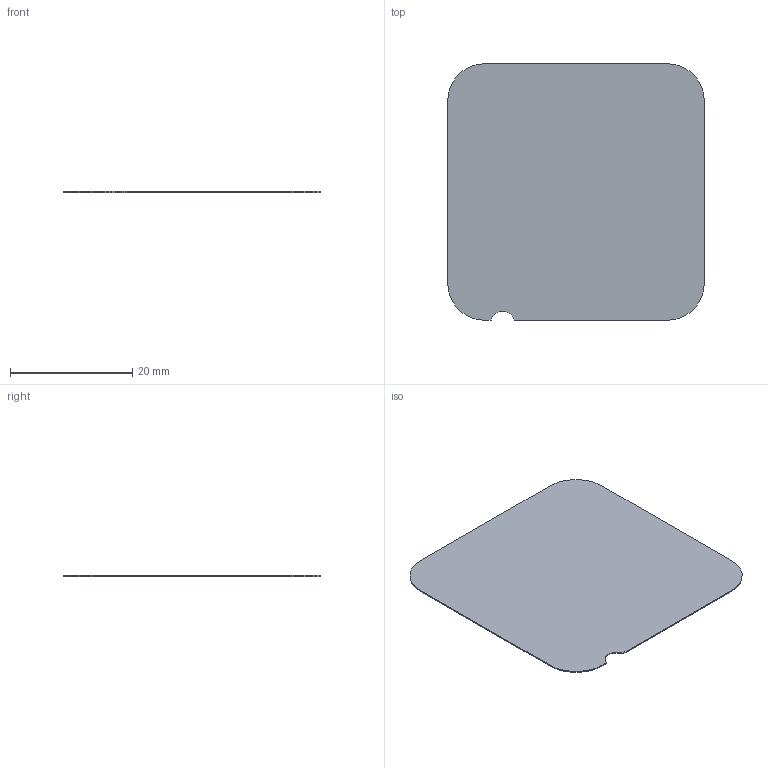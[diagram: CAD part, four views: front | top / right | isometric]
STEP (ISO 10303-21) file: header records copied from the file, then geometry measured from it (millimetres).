
FILE_DESCRIPTION(('Open CASCADE Model'),'2;1');
FILE_NAME('Acoustic_backing','2026-09-21T22:33:49',('Author'),( 'Open CASCADE'),'Open CASCADE STEP processor 7.9','build123d', 'Unknown');
FILE_SCHEMA(('AUTOMOTIVE_DESIGN { 1 0 10303 214 1 1 1 1 }'));
Length unit declared in the file: millimetre
Products named in the file (2): Acoustic_backing
Assembly tree (1 placements, depth 2):
  Acoustic_backing
    Acoustic_backing
Bounding box: 42 x 42 x 0.18 mm (x, y, z)
Volume: 311.2 mm3; surface area: 3486.7 mm2
Topology: 1 solids, 1 shells, 12 faces, 30 edges, 20 vertices
Faces by surface type: plane 7, cylinder 5
Entity records: 416 total; most frequent: DIRECTION 68, CARTESIAN_POINT 64, ORIENTED_EDGE 60, EDGE_CURVE 30, AXIS2_PLACEMENT_3D 24, VERTEX_POINT 20, LINE 20, VECTOR 20
